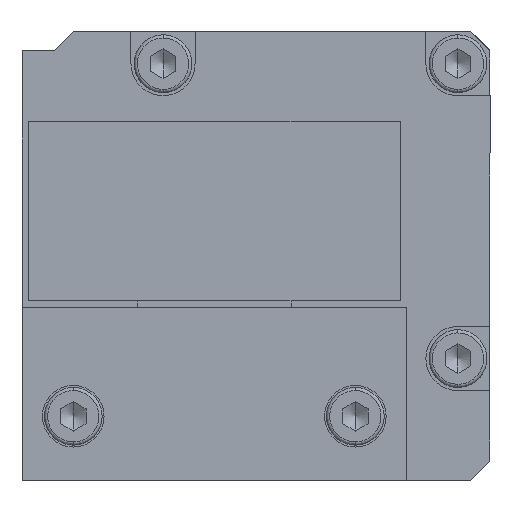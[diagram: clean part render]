
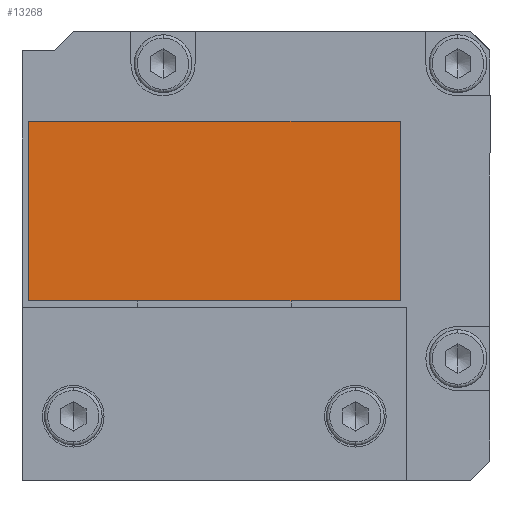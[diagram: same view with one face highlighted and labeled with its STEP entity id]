
A CAD part, left-side view. The second image highlights one B-rep face of the part: STEP entity #13268.
In plain terms, the highlighted planar face has unit normal (-1, 0, 0).
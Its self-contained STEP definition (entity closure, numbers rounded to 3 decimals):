
#13249 = ORIENTED_EDGE ( 'NONE', *, *, #13250, .F. ) ;
#13250 = EDGE_CURVE ( 'NONE', #13251, #13276, #32876, .T. ) ;
#13251 = VERTEX_POINT ( 'NONE', #32872 ) ;
#13252 = ORIENTED_EDGE ( 'NONE', *, *, #13253, .F. ) ;
#13253 = EDGE_CURVE ( 'NONE', #13272, #13251, #32936, .T. ) ;
#13268 = ADVANCED_FACE ( 'NONE', ( #32916 ), #32910, .T. ) ;
#13269 = EDGE_LOOP ( 'NONE', ( #13270, #13274, #13249, #13252 ) ) ;
#13270 = ORIENTED_EDGE ( 'NONE', *, *, #13271, .T. ) ;
#13271 = EDGE_CURVE ( 'NONE', #13272, #13273, #32905, .T. ) ;
#13272 = VERTEX_POINT ( 'NONE', #32968 ) ;
#13273 = VERTEX_POINT ( 'NONE', #32967 ) ;
#13274 = ORIENTED_EDGE ( 'NONE', *, *, #13275, .F. ) ;
#13275 = EDGE_CURVE ( 'NONE', #13276, #13273, #32966, .T. ) ;
#13276 = VERTEX_POINT ( 'NONE', #32962 ) ;
#32872 = CARTESIAN_POINT ( 'NONE',  ( 7.864, 0.5, 14. ) ) ;
#32873 = DIRECTION ( 'NONE',  ( 0., 1., 0. ) ) ;
#32874 = VECTOR ( 'NONE', #32873, 1000. ) ;
#32875 = CARTESIAN_POINT ( 'NONE',  ( 7.864, 15., 14. ) ) ;
#32876 = LINE ( 'NONE', #32875, #32874 ) ;
#32904 = CARTESIAN_POINT ( 'NONE',  ( 7.864, 15., 28. ) ) ;
#32905 = LINE ( 'NONE', #32904, #32970 ) ;
#32906 = DIRECTION ( 'NONE',  ( 0., -1., 0. ) ) ;
#32907 = DIRECTION ( 'NONE',  ( -1., 0., 0. ) ) ;
#32908 = CARTESIAN_POINT ( 'NONE',  ( 7.864, 29.5, 28. ) ) ;
#32909 = AXIS2_PLACEMENT_3D ( 'NONE', #32908, #32907, #32906 ) ;
#32910 = PLANE ( 'NONE',  #32909 ) ;
#32916 = FACE_OUTER_BOUND ( 'NONE', #13269, .T. ) ;
#32933 = DIRECTION ( 'NONE',  ( 0., 0., -1. ) ) ;
#32934 = VECTOR ( 'NONE', #32933, 1000. ) ;
#32935 = CARTESIAN_POINT ( 'NONE',  ( 7.864, 0.5, 28. ) ) ;
#32936 = LINE ( 'NONE', #32935, #32934 ) ;
#32962 = CARTESIAN_POINT ( 'NONE',  ( 7.864, 29.5, 14. ) ) ;
#32963 = DIRECTION ( 'NONE',  ( 0., 0., 1. ) ) ;
#32964 = VECTOR ( 'NONE', #32963, 1000. ) ;
#32965 = CARTESIAN_POINT ( 'NONE',  ( 7.864, 29.5, 28. ) ) ;
#32966 = LINE ( 'NONE', #32965, #32964 ) ;
#32967 = CARTESIAN_POINT ( 'NONE',  ( 7.864, 29.5, 28. ) ) ;
#32968 = CARTESIAN_POINT ( 'NONE',  ( 7.864, 0.5, 28. ) ) ;
#32969 = DIRECTION ( 'NONE',  ( 0., 1., 0. ) ) ;
#32970 = VECTOR ( 'NONE', #32969, 1000. ) ;
